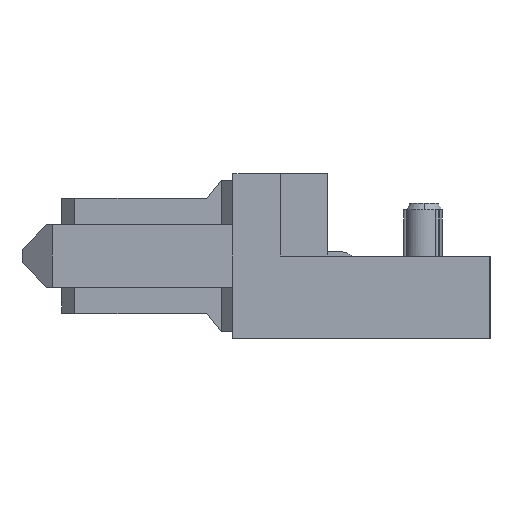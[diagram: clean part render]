
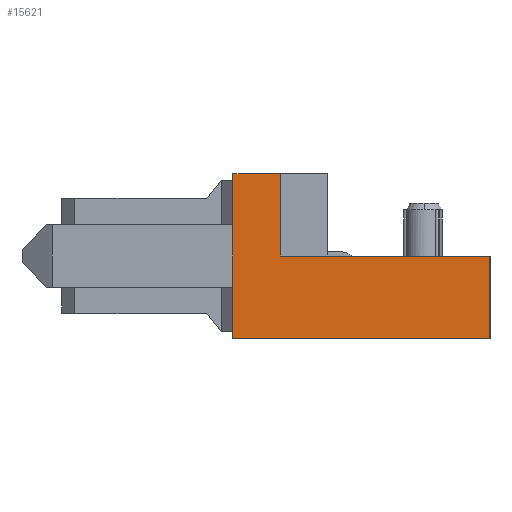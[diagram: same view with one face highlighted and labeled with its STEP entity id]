
A CAD part, left-side view. The second image highlights one B-rep face of the part: STEP entity #15621.
In plain terms, the highlighted planar face has unit normal (-1, 0, 0).
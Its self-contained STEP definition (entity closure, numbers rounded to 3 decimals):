
#1057=DIRECTION('',(0.,1.,0.));
#1058=VECTOR('',#1057,6.35);
#1059=CARTESIAN_POINT('',(-17.325,-7.8,0.));
#1060=LINE('',#1059,#1058);
#1061=DIRECTION('',(0.,0.,-1.));
#1062=VECTOR('',#1061,2.5);
#1063=CARTESIAN_POINT('',(-17.325,-7.8,0.));
#1064=LINE('',#1063,#1062);
#1065=DIRECTION('',(0.,1.,0.));
#1066=VECTOR('',#1065,7.8);
#1067=CARTESIAN_POINT('',(-17.325,-7.8,-2.5));
#1068=LINE('',#1067,#1066);
#1069=DIRECTION('',(0.,0.,1.));
#1070=VECTOR('',#1069,5.);
#1071=CARTESIAN_POINT('',(-17.325,0.,-2.5));
#1072=LINE('',#1071,#1070);
#1073=DIRECTION('',(0.,-1.,0.));
#1074=VECTOR('',#1073,1.45);
#1075=CARTESIAN_POINT('',(-17.325,0.,2.5));
#1076=LINE('',#1075,#1074);
#1077=DIRECTION('',(0.,0.,-1.));
#1078=VECTOR('',#1077,2.5);
#1079=CARTESIAN_POINT('',(-17.325,-1.45,2.5));
#1080=LINE('',#1079,#1078);
#11051=CARTESIAN_POINT('',(-17.325,-7.8,-2.5));
#11052=CARTESIAN_POINT('',(-17.325,0.,-2.5));
#11053=VERTEX_POINT('',#11051);
#11054=VERTEX_POINT('',#11052);
#11055=CARTESIAN_POINT('',(-17.325,0.,2.5));
#11056=VERTEX_POINT('',#11055);
#11079=CARTESIAN_POINT('',(-17.325,-7.8,0.));
#11080=CARTESIAN_POINT('',(-17.325,-1.45,0.));
#11081=VERTEX_POINT('',#11079);
#11082=VERTEX_POINT('',#11080);
#11083=CARTESIAN_POINT('',(-17.325,-1.45,2.5));
#11084=VERTEX_POINT('',#11083);
#15606=CARTESIAN_POINT('',(-17.325,0.,0.));
#15607=DIRECTION('',(1.,0.,0.));
#15608=DIRECTION('',(0.,0.,-1.));
#15609=AXIS2_PLACEMENT_3D('',#15606,#15607,#15608);
#15610=PLANE('',#15609);
#15611=ORIENTED_EDGE('',*,*,#15458,.F.);
#15612=ORIENTED_EDGE('',*,*,#15493,.T.);
#15614=ORIENTED_EDGE('',*,*,#15613,.T.);
#15616=ORIENTED_EDGE('',*,*,#15615,.T.);
#15617=ORIENTED_EDGE('',*,*,#15369,.T.);
#15618=ORIENTED_EDGE('',*,*,#15586,.T.);
#15619=EDGE_LOOP('',(#15611,#15612,#15614,#15616,#15617,#15618));
#15620=FACE_OUTER_BOUND('',#15619,.F.);
#15621=ADVANCED_FACE('',(#15620),#15610,.F.);
#15369=EDGE_CURVE('',#11056,#11084,#1076,.T.);
#15458=EDGE_CURVE('',#11081,#11082,#1060,.T.);
#15493=EDGE_CURVE('',#11081,#11053,#1064,.T.);
#15586=EDGE_CURVE('',#11084,#11082,#1080,.T.);
#15613=EDGE_CURVE('',#11053,#11054,#1068,.T.);
#15615=EDGE_CURVE('',#11054,#11056,#1072,.T.);
